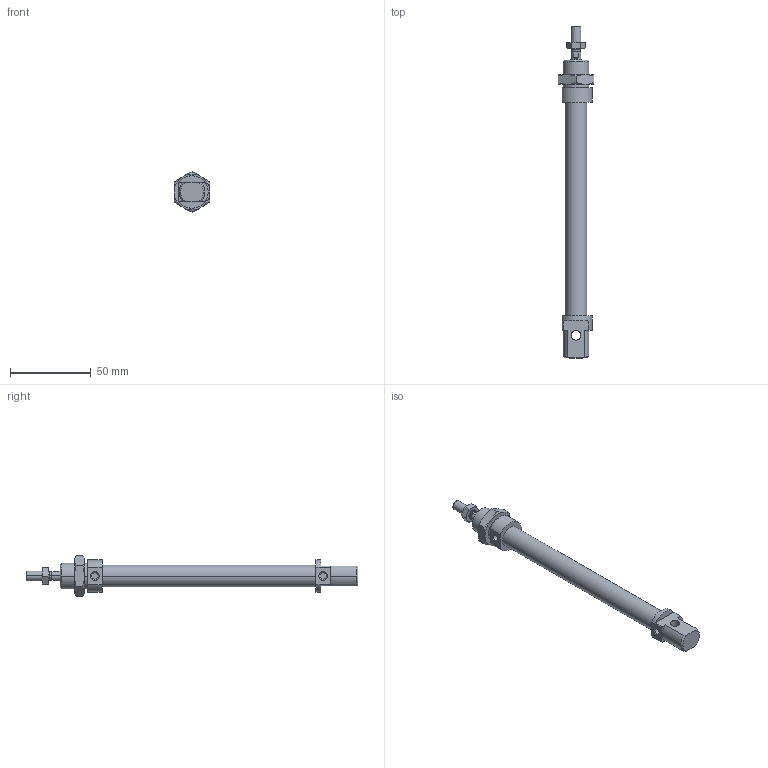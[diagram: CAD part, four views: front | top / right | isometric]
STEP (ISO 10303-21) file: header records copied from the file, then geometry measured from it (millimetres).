
FILE_DESCRIPTION((''),'2;1');
FILE_NAME('I:\DOC-EDP\Lib-3d\1200\CILINDRI\1280\1280_12_0100.stp','2003-04-07T14:49:59',('maffial1'),(''),'Autodesk Inventor (R) 6.0','Autodesk Inventor (R) 6.0','');
FILE_SCHEMA(('AUTOMOTIVE_DESIGN { 1 0 10303 214 1 1 1 1 }'));
Length unit declared in the file: millimetre
Products named in the file (5): 1280_12_0100; S1280_12_100; 1200_12_05; 1200_12_06; C1280_12_100
Assembly tree (4 placements, depth 2):
  1280_12_0100
    S1280_12_100
    1200_12_05
    1200_12_06
    C1280_12_100
Bounding box: 22 x 205 x 25.4 mm (x, y, z)
Volume: 31116.1 mm3; surface area: 16122.1 mm2
Topology: 4 solids, 4 shells, 121 faces, 268 edges, 162 vertices
Faces by surface type: cone 40, plane 39, cylinder 22, bspline 20
Entity records: 3653 total; most frequent: CARTESIAN_POINT 976, DIRECTION 556, ORIENTED_EDGE 536, EDGE_CURVE 268, AXIS2_PLACEMENT_3D 230, VERTEX_POINT 162, EDGE_LOOP 134, FACE_OUTER_BOUND 121
